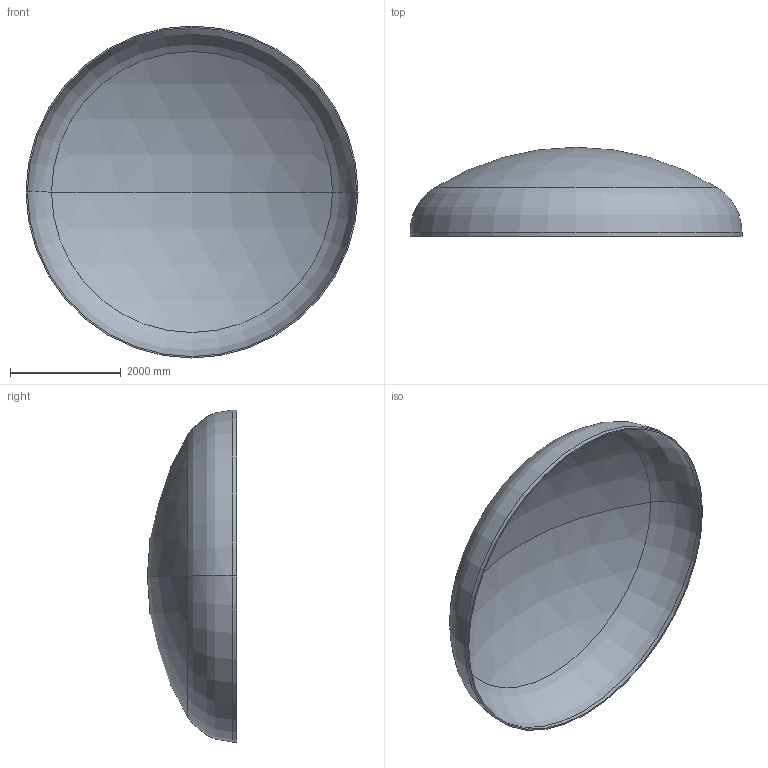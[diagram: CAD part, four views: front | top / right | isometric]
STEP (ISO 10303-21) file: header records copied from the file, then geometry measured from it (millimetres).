
FILE_DESCRIPTION (( 'STEP AP203' ), '1' );
FILE_NAME ('DIN 28013 Korbbogenform_-_Boden DIN 28013 - 6000 x 75 - I - s=25.step', '2016-07-04T10:36:15', ( '' ), ( '' ), 'SwSTEP 2.0', 'SolidWorks 2013', '' );
FILE_SCHEMA (( 'CONFIG_CONTROL_DESIGN' ));
Length unit declared in the file: millimetre
Products named in the file (1): DIN 28013 Korbbogenform_-_Boden DIN 28013 - 6000 x 75 - I - s=25
Bounding box: 6000 x 1611.67 x 6000 mm (x, y, z)
Volume: 1009058621.1 mm3; surface area: 81195241.7 mm2
Topology: 1 solids, 1 shells, 13 faces, 24 edges, 14 vertices
Faces by surface type: torus 4, cylinder 4, sphere 4, plane 1
Entity records: 407 total; most frequent: DIRECTION 72, CARTESIAN_POINT 52, ORIENTED_EDGE 48, AXIS2_PLACEMENT_3D 34, EDGE_CURVE 24, CIRCLE 20, VERTEX_POINT 14, EDGE_LOOP 14
